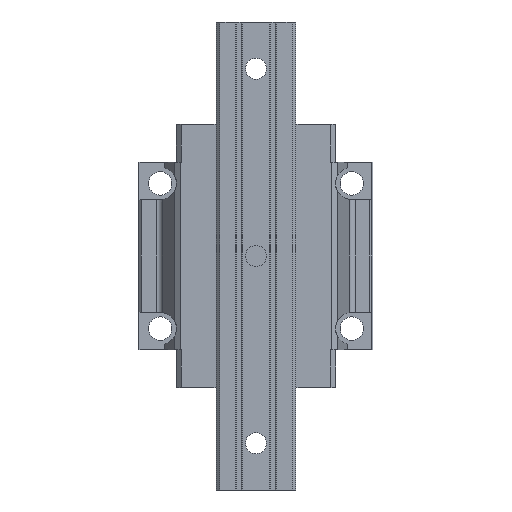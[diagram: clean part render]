
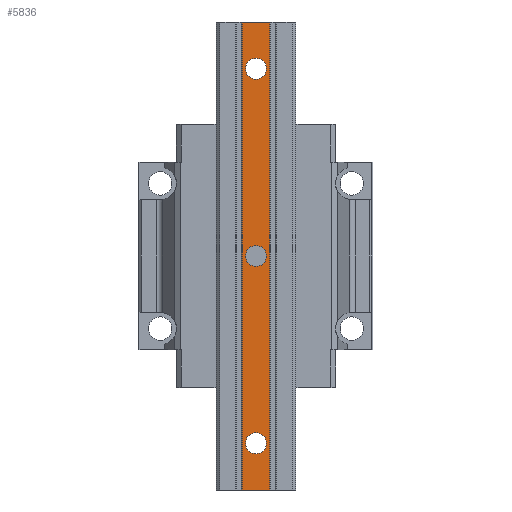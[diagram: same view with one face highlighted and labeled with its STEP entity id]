
A CAD part, front view. The second image highlights one B-rep face of the part: STEP entity #5836.
In plain terms, the highlighted planar face has unit normal (0, -1, 0).
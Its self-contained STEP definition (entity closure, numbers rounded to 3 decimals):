
#4846=DIRECTION('',(-1.,0.,0.));
#4847=VECTOR('',#4846,11.7);
#4848=CARTESIAN_POINT('',(5.85,-29.,-100.));
#4849=LINE('',#4848,#4847);
#4850=DIRECTION('',(0.,0.,-1.));
#4851=VECTOR('',#4850,200.);
#4852=CARTESIAN_POINT('',(5.85,-29.,100.));
#4853=LINE('',#4852,#4851);
#4854=CARTESIAN_POINT('',(0.,-29.,0.));
#4855=DIRECTION('',(0.,-1.,0.));
#4856=DIRECTION('',(1.,0.,0.));
#4857=AXIS2_PLACEMENT_3D('',#4854,#4855,#4856);
#4859=CARTESIAN_POINT('',(0.,-29.,0.));
#4860=DIRECTION('',(0.,-1.,0.));
#4861=DIRECTION('',(-1.,0.,0.));
#4862=AXIS2_PLACEMENT_3D('',#4859,#4860,#4861);
#4864=CARTESIAN_POINT('',(0.,-29.,80.));
#4865=DIRECTION('',(0.,-1.,0.));
#4866=DIRECTION('',(1.,0.,0.));
#4867=AXIS2_PLACEMENT_3D('',#4864,#4865,#4866);
#4869=CARTESIAN_POINT('',(0.,-29.,80.));
#4870=DIRECTION('',(0.,-1.,0.));
#4871=DIRECTION('',(-1.,0.,0.));
#4872=AXIS2_PLACEMENT_3D('',#4869,#4870,#4871);
#4874=CARTESIAN_POINT('',(0.,-29.,-80.));
#4875=DIRECTION('',(0.,-1.,0.));
#4876=DIRECTION('',(1.,0.,0.));
#4877=AXIS2_PLACEMENT_3D('',#4874,#4875,#4876);
#4879=CARTESIAN_POINT('',(0.,-29.,-80.));
#4880=DIRECTION('',(0.,-1.,0.));
#4881=DIRECTION('',(-1.,0.,0.));
#4882=AXIS2_PLACEMENT_3D('',#4879,#4880,#4881);
#4884=DIRECTION('',(0.,0.,-1.));
#4885=VECTOR('',#4884,200.);
#4886=CARTESIAN_POINT('',(-5.85,-29.,100.));
#4887=LINE('',#4886,#4885);
#5094=DIRECTION('',(-1.,0.,0.));
#5095=VECTOR('',#5094,11.7);
#5096=CARTESIAN_POINT('',(5.85,-29.,100.));
#5097=LINE('',#5096,#5095);
#5340=CARTESIAN_POINT('',(-5.85,-29.,-100.));
#5341=VERTEX_POINT('',#5340);
#5342=CARTESIAN_POINT('',(5.85,-29.,-100.));
#5343=VERTEX_POINT('',#5342);
#5404=CARTESIAN_POINT('',(5.85,-29.,100.));
#5405=VERTEX_POINT('',#5404);
#5406=CARTESIAN_POINT('',(-5.85,-29.,100.));
#5407=VERTEX_POINT('',#5406);
#5408=CARTESIAN_POINT('',(4.5,-29.,0.));
#5409=CARTESIAN_POINT('',(-4.5,-29.,0.));
#5410=VERTEX_POINT('',#5408);
#5411=VERTEX_POINT('',#5409);
#5412=CARTESIAN_POINT('',(4.5,-29.,80.));
#5413=CARTESIAN_POINT('',(-4.5,-29.,80.));
#5414=VERTEX_POINT('',#5412);
#5415=VERTEX_POINT('',#5413);
#5416=CARTESIAN_POINT('',(4.5,-29.,-80.));
#5417=CARTESIAN_POINT('',(-4.5,-29.,-80.));
#5418=VERTEX_POINT('',#5416);
#5419=VERTEX_POINT('',#5417);
#5805=CARTESIAN_POINT('',(-5.85,-29.,-100.));
#5806=DIRECTION('',(0.,-1.,0.));
#5807=DIRECTION('',(1.,0.,0.));
#5808=AXIS2_PLACEMENT_3D('',#5805,#5806,#5807);
#5809=PLANE('',#5808);
#5810=ORIENTED_EDGE('',*,*,#5545,.T.);
#5812=ORIENTED_EDGE('',*,*,#5811,.F.);
#5814=ORIENTED_EDGE('',*,*,#5813,.F.);
#5815=ORIENTED_EDGE('',*,*,#5797,.T.);
#5816=EDGE_LOOP('',(#5810,#5812,#5814,#5815));
#5817=FACE_OUTER_BOUND('',#5816,.F.);
#5819=ORIENTED_EDGE('',*,*,#5818,.T.);
#5821=ORIENTED_EDGE('',*,*,#5820,.T.);
#5822=EDGE_LOOP('',(#5819,#5821));
#5823=FACE_BOUND('',#5822,.F.);
#5825=ORIENTED_EDGE('',*,*,#5824,.T.);
#5827=ORIENTED_EDGE('',*,*,#5826,.T.);
#5828=EDGE_LOOP('',(#5825,#5827));
#5829=FACE_BOUND('',#5828,.F.);
#5831=ORIENTED_EDGE('',*,*,#5830,.T.);
#5833=ORIENTED_EDGE('',*,*,#5832,.T.);
#5834=EDGE_LOOP('',(#5831,#5833));
#5835=FACE_BOUND('',#5834,.F.);
#5836=ADVANCED_FACE('',(#5817,#5823,#5829,#5835),#5809,.T.);
#4858=CIRCLE('',#4857,4.5);
#4863=CIRCLE('',#4862,4.5);
#4868=CIRCLE('',#4867,4.5);
#4873=CIRCLE('',#4872,4.5);
#4878=CIRCLE('',#4877,4.5);
#4883=CIRCLE('',#4882,4.5);
#5545=EDGE_CURVE('',#5343,#5341,#4849,.T.);
#5797=EDGE_CURVE('',#5405,#5343,#4853,.T.);
#5811=EDGE_CURVE('',#5407,#5341,#4887,.T.);
#5813=EDGE_CURVE('',#5405,#5407,#5097,.T.);
#5818=EDGE_CURVE('',#5410,#5411,#4858,.T.);
#5820=EDGE_CURVE('',#5411,#5410,#4863,.T.);
#5824=EDGE_CURVE('',#5414,#5415,#4868,.T.);
#5826=EDGE_CURVE('',#5415,#5414,#4873,.T.);
#5830=EDGE_CURVE('',#5418,#5419,#4878,.T.);
#5832=EDGE_CURVE('',#5419,#5418,#4883,.T.);
